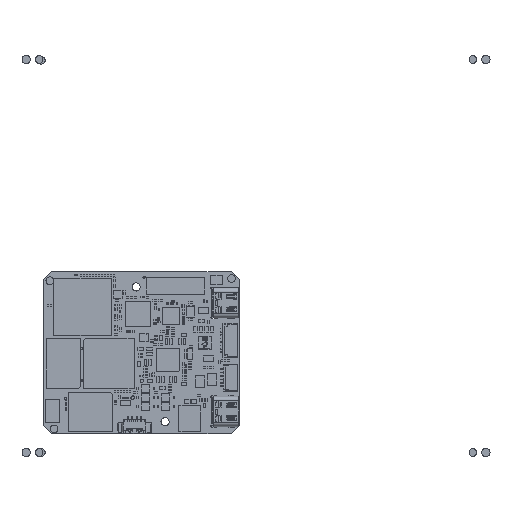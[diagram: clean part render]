
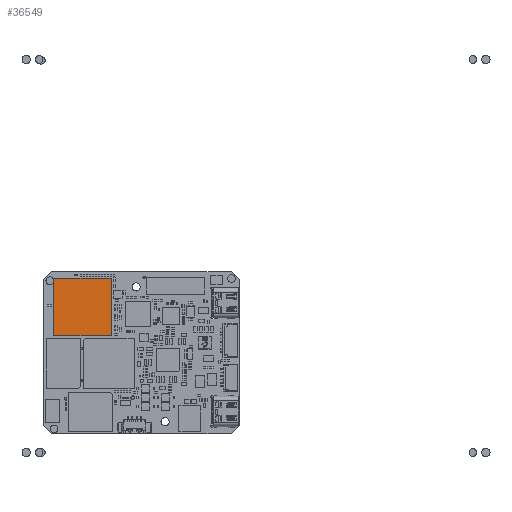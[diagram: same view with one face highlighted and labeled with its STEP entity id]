
A CAD part, top view. The second image highlights one B-rep face of the part: STEP entity #36549.
In plain terms, the highlighted planar face has unit normal (0, 0, 1).
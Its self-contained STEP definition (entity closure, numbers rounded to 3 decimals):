
#18279=FACE_OUTER_BOUND($,#22064,.F.);
#22064=EDGE_LOOP($,(#41042,#41043,#41044,#41045));
#27336=AXIS2_PLACEMENT_3D($,#123964,#100951,$);
#33285=PLANE($,#27336);
#36549=ADVANCED_FACE($,(#18279),#33285,.T.);
#41042=ORIENTED_EDGE($,*,*,#61730,.T.);
#41043=ORIENTED_EDGE($,*,*,#61731,.T.);
#41044=ORIENTED_EDGE($,*,*,#61732,.T.);
#41045=ORIENTED_EDGE($,*,*,#61733,.T.);
#61730=EDGE_CURVE($,#92847,#92848,#82508,.T.);
#61731=EDGE_CURVE($,#92848,#92849,#82509,.T.);
#61732=EDGE_CURVE($,#92849,#92850,#82510,.T.);
#61733=EDGE_CURVE($,#92850,#92847,#82511,.T.);
#72175=VECTOR($,#102184,17.);
#72176=VECTOR($,#102185,17.);
#72177=VECTOR($,#102186,17.);
#72178=VECTOR($,#102187,17.);
#82508=LINE($,#123963,#72175);
#82509=LINE($,#123964,#72176);
#82510=LINE($,#123965,#72177);
#82511=LINE($,#123966,#72178);
#92847=VERTEX_POINT($,#123963);
#92848=VERTEX_POINT($,#123964);
#92849=VERTEX_POINT($,#123965);
#92850=VERTEX_POINT($,#123966);
#100951=DIRECTION($,(0.,0.,1.));
#102184=DIRECTION($,(-1.,0.,0.));
#102185=DIRECTION($,(0.,1.,0.));
#102186=DIRECTION($,(1.,0.,0.));
#102187=DIRECTION($,(0.,-1.,0.));
#123963=CARTESIAN_POINT('',(8.5,-8.5,2.626));
#123964=CARTESIAN_POINT('',(-8.5,-8.5,2.626));
#123965=CARTESIAN_POINT('',(-8.5,8.5,2.626));
#123966=CARTESIAN_POINT('',(8.5,8.5,2.626));
